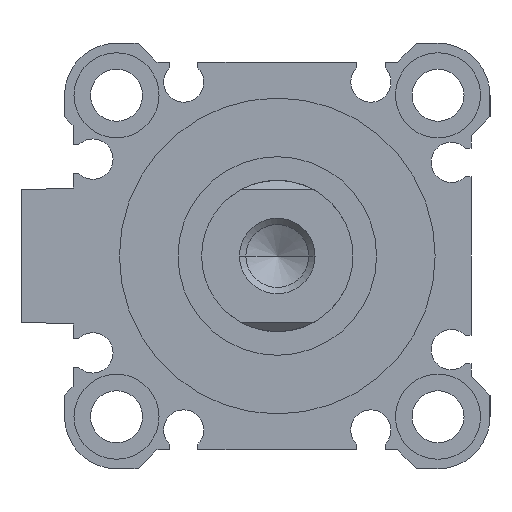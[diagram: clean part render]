
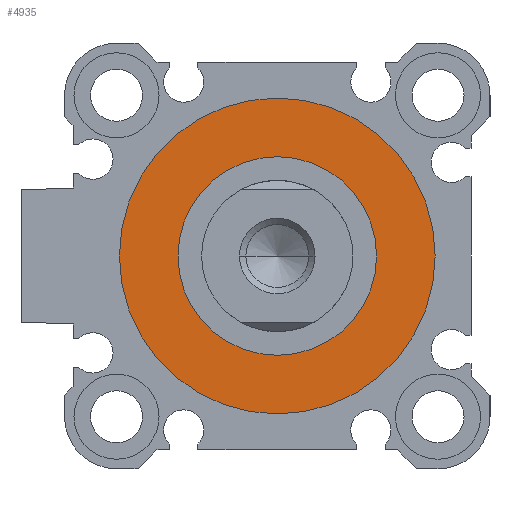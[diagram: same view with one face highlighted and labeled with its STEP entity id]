
A CAD part, left-side view. The second image highlights one B-rep face of the part: STEP entity #4935.
In plain terms, the highlighted planar face has unit normal (-1, 0, 0).
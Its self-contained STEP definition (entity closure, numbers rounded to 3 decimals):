
#24 = EDGE_CURVE ( 'NONE', #5006, #4072, #3212, .T. ) ;
#218 = DIRECTION ( 'NONE',  ( 1., 0., 0. ) ) ;
#242 = FACE_BOUND ( 'NONE', #1983, .T. ) ;
#269 = DIRECTION ( 'NONE',  ( 0., 1., 0. ) ) ;
#282 = ORIENTED_EDGE ( 'NONE', *, *, #1941, .F. ) ;
#306 = CARTESIAN_POINT ( 'NONE',  ( 2.1, 0., 0. ) ) ;
#415 = CARTESIAN_POINT ( 'NONE',  ( 2.1, 0., -16.7 ) ) ;
#555 = CARTESIAN_POINT ( 'NONE',  ( 2.1, 0., 0. ) ) ;
#928 = AXIS2_PLACEMENT_3D ( 'NONE', #3029, #3385, #4938 ) ;
#1094 = CIRCLE ( 'NONE', #928, 10.5 ) ;
#1236 = ORIENTED_EDGE ( 'NONE', *, *, #24, .T. ) ;
#1305 = VERTEX_POINT ( 'NONE', #415 ) ;
#1471 = CARTESIAN_POINT ( 'NONE',  ( 2.1, 0., 0. ) ) ;
#1503 = CIRCLE ( 'NONE', #2475, 16.7 ) ;
#1621 = EDGE_CURVE ( 'NONE', #2359, #1305, #4423, .T. ) ;
#1699 = EDGE_CURVE ( 'NONE', #4072, #5006, #1094, .T. ) ;
#1941 = EDGE_CURVE ( 'NONE', #1305, #2359, #1503, .T. ) ;
#1983 = EDGE_LOOP ( 'NONE', ( #1236, #2489 ) ) ;
#2359 = VERTEX_POINT ( 'NONE', #2558 ) ;
#2475 = AXIS2_PLACEMENT_3D ( 'NONE', #1471, #2971, #3323 ) ;
#2489 = ORIENTED_EDGE ( 'NONE', *, *, #1699, .T. ) ;
#2558 = CARTESIAN_POINT ( 'NONE',  ( 2.1, 0., 16.7 ) ) ;
#2595 = DIRECTION ( 'NONE',  ( 0., 0., -1. ) ) ;
#2971 = DIRECTION ( 'NONE',  ( 1., 0., 0. ) ) ;
#2972 = EDGE_LOOP ( 'NONE', ( #3632, #282 ) ) ;
#2992 = FACE_OUTER_BOUND ( 'NONE', #2972, .T. ) ;
#3029 = CARTESIAN_POINT ( 'NONE',  ( 2.1, 0., 0. ) ) ;
#3212 = CIRCLE ( 'NONE', #4843, 10.5 ) ;
#3323 = DIRECTION ( 'NONE',  ( 0., 0., -1. ) ) ;
#3358 = DIRECTION ( 'NONE',  ( 1., 0., 0. ) ) ;
#3385 = DIRECTION ( 'NONE',  ( 1., 0., 0. ) ) ;
#3632 = ORIENTED_EDGE ( 'NONE', *, *, #1621, .F. ) ;
#3712 = CARTESIAN_POINT ( 'NONE',  ( 2.1, 0., 0. ) ) ;
#3780 = AXIS2_PLACEMENT_3D ( 'NONE', #306, #3358, #4561 ) ;
#4072 = VERTEX_POINT ( 'NONE', #4719 ) ;
#4088 = CARTESIAN_POINT ( 'NONE',  ( 2.1, 0., 10.5 ) ) ;
#4423 = CIRCLE ( 'NONE', #3780, 16.7 ) ;
#4459 = DIRECTION ( 'NONE',  ( 1., 0., 0. ) ) ;
#4472 = PLANE ( 'NONE',  #4889 ) ;
#4561 = DIRECTION ( 'NONE',  ( 0., 0., -1. ) ) ;
#4719 = CARTESIAN_POINT ( 'NONE',  ( 2.1, 0., -10.5 ) ) ;
#4843 = AXIS2_PLACEMENT_3D ( 'NONE', #555, #4459, #2595 ) ;
#4889 = AXIS2_PLACEMENT_3D ( 'NONE', #3712, #218, #269 ) ;
#4935 = ADVANCED_FACE ( 'NONE', ( #2992, #242 ), #4472, .F. ) ;
#4938 = DIRECTION ( 'NONE',  ( 0., 0., -1. ) ) ;
#5006 = VERTEX_POINT ( 'NONE', #4088 ) ;
